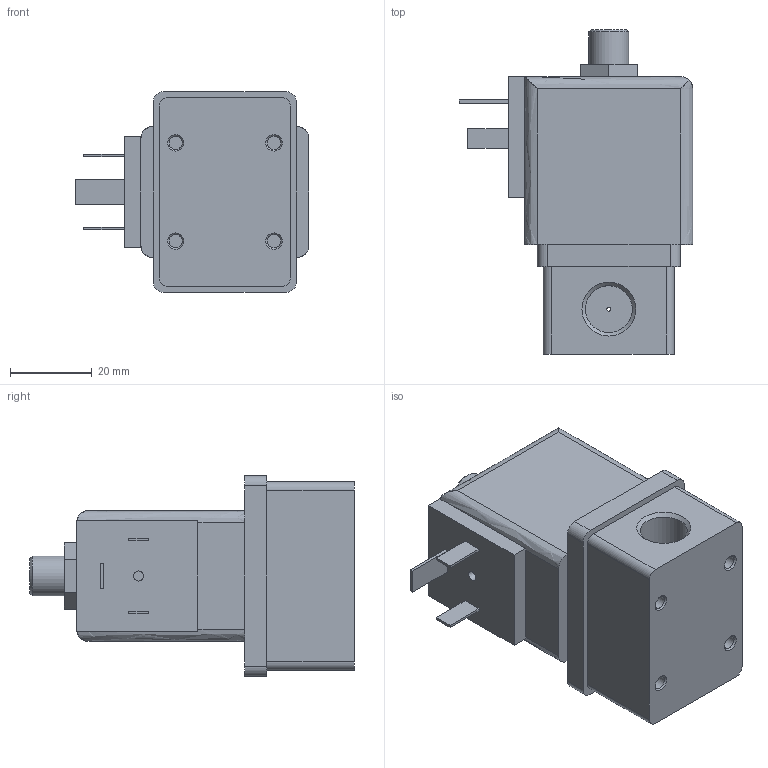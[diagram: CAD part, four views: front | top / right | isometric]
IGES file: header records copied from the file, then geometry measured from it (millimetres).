
Start section: Data from Parasolid IGES Translator 26.0.171, Copyright(c) 2006 Siemens PLM Software. All Rights Reserved.
Global section: file name: 6014-126142-3_2-way_Solenoid_Valve_direct-acting.igs; native system: By Siemens PLM Incorporated; preprocessor: XPlus GENERIC/IGES 26.0.171; author: Noname; organization: Noname; date: 20240812.142839; units: millimetre
Bounding box: 57.05 x 79.3 x 49 mm (x, y, z)
Surface area: 16449.7 mm2 (no closed solid volume)
Topology: 0 solids, 0 shells, 86 faces, 398 edges, 374 vertices
Faces by surface type: extrusion 55, revolution 31
